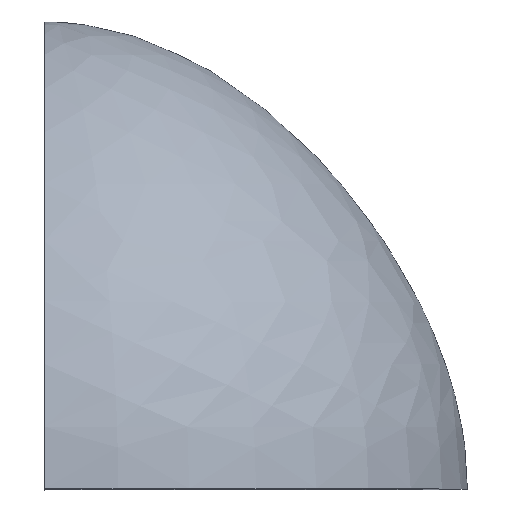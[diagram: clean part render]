
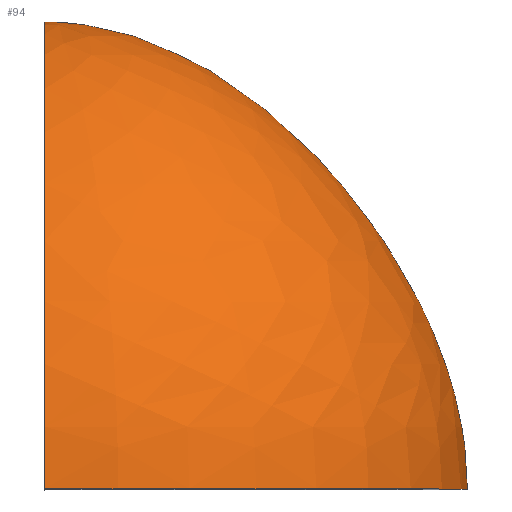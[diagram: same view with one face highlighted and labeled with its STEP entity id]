
A CAD part, top view. The second image highlights one B-rep face of the part: STEP entity #94.
In plain terms, the highlighted face is a revolution surface.
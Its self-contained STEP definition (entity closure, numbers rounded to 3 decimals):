
#52=CARTESIAN_POINT('Control Point',(0.,0.,95.)) ;
#53=CARTESIAN_POINT('Control Point',(0.,28.32,95.)) ;
#54=CARTESIAN_POINT('Control Point',(0.,58.11,81.87)) ;
#55=CARTESIAN_POINT('Control Point',(0.,89.37,55.61)) ;
#56=CARTESIAN_POINT('Control Point',(0.,105.,28.32)) ;
#57=CARTESIAN_POINT('Control Point',(0.,105.,0.)) ;
#58=CARTESIAN_POINT('Axis1P Location',(0.,0.,0.)) ;
#63=CARTESIAN_POINT('Control Point',(0.,0.,-95.)) ;
#64=CARTESIAN_POINT('Control Point',(0.,28.32,-95.)) ;
#65=CARTESIAN_POINT('Control Point',(0.,58.11,-81.87)) ;
#66=CARTESIAN_POINT('Control Point',(0.,89.37,-55.61)) ;
#67=CARTESIAN_POINT('Control Point',(0.,105.,-28.32)) ;
#68=CARTESIAN_POINT('Control Point',(0.,105.,0.)) ;
#69=CARTESIAN_POINT('Vertex',(0.,0.,-95.)) ;
#71=CARTESIAN_POINT('Vertex',(0.,105.,0.)) ;
#75=CARTESIAN_POINT('Control Point',(0.,0.,95.)) ;
#76=CARTESIAN_POINT('Control Point',(0.,28.32,95.)) ;
#77=CARTESIAN_POINT('Control Point',(0.,58.11,81.87)) ;
#78=CARTESIAN_POINT('Control Point',(0.,89.37,55.61)) ;
#79=CARTESIAN_POINT('Control Point',(0.,105.,28.32)) ;
#80=CARTESIAN_POINT('Control Point',(0.,105.,0.)) ;
#81=CARTESIAN_POINT('Vertex',(0.,0.,95.)) ;
#84=CARTESIAN_POINT('Axis2P3D Location',(0.,0.,0.)) ;
#59=DIRECTION('Axis1P Direction',(0.,1.,0.)) ;
#85=DIRECTION('Axis2P3D Direction',(0.,1.,0.)) ;
#86=AXIS2_PLACEMENT_3D('Circle Axis2P3D',#84,#85,$) ;
#90=ORIENTED_EDGE('',*,*,#73,.T.) ;
#91=ORIENTED_EDGE('',*,*,#83,.F.) ;
#92=ORIENTED_EDGE('',*,*,#88,.T.) ;
#94=ADVANCED_FACE('PartBody',(#93),#61,.T.) ;
#60=AXIS1_PLACEMENT('Revolution Surface Axis1P',#58,#59) ;
#51=B_SPLINE_CURVE_WITH_KNOTS('',5,(#52,#53,#54,#55,#56,#57),.UNSPECIFIED.,.F.,.U.,(6,6),(0.,141.598),.UNSPECIFIED.) ;
#62=B_SPLINE_CURVE_WITH_KNOTS('',5,(#63,#64,#65,#66,#67,#68),.UNSPECIFIED.,.F.,.U.,(6,6),(0.,141.598),.UNSPECIFIED.) ;
#74=B_SPLINE_CURVE_WITH_KNOTS('',5,(#75,#76,#77,#78,#79,#80),.UNSPECIFIED.,.F.,.U.,(6,6),(0.,141.598),.UNSPECIFIED.) ;
#87=CIRCLE('generated circle',#86,95.) ;
#73=EDGE_CURVE('',#70,#72,#62,.T.) ;
#83=EDGE_CURVE('',#82,#72,#74,.T.) ;
#88=EDGE_CURVE('',#82,#70,#87,.T.) ;
#89=EDGE_LOOP('',(#90,#91,#92)) ;
#93=FACE_OUTER_BOUND('',#89,.T.) ;
#61=SURFACE_OF_REVOLUTION('Surface of Revolution',#51,#60) ;
#70=VERTEX_POINT('',#69) ;
#72=VERTEX_POINT('',#71) ;
#82=VERTEX_POINT('',#81) ;
